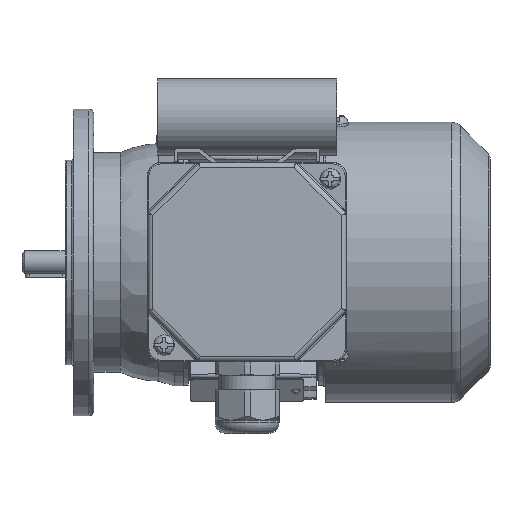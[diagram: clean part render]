
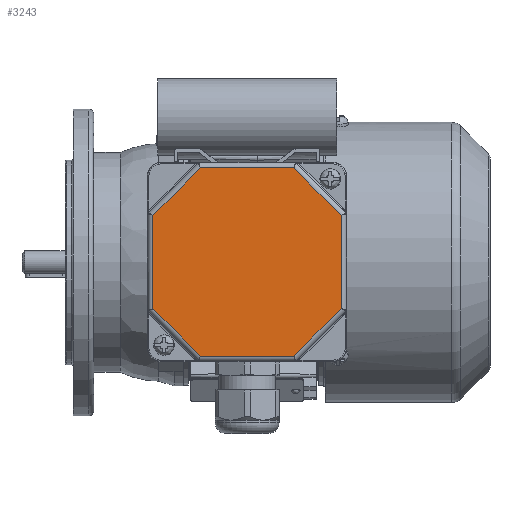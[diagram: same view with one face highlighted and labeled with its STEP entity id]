
A CAD part, top view. The second image highlights one B-rep face of the part: STEP entity #3243.
In plain terms, the highlighted planar face has unit normal (0, 0, 1).
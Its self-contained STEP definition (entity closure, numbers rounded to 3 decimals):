
#3243 = ADVANCED_FACE( '', ( #7166 ), #7167, .T. );
#7166 = FACE_OUTER_BOUND( '', #15198, .T. );
#7167 = PLANE( '', #15199 );
#15198 = EDGE_LOOP( '', ( #30083, #30084, #30085, #30086, #30087, #30088, #30089, #30090 ) );
#15199 = AXIS2_PLACEMENT_3D( '', #30091, #30092, #30093 );
#30083 = ORIENTED_EDGE( '', *, *, #40921, .T. );
#30084 = ORIENTED_EDGE( '', *, *, #42422, .T. );
#30085 = ORIENTED_EDGE( '', *, *, #42688, .T. );
#30086 = ORIENTED_EDGE( '', *, *, #42689, .T. );
#30087 = ORIENTED_EDGE( '', *, *, #42690, .T. );
#30088 = ORIENTED_EDGE( '', *, *, #42691, .T. );
#30089 = ORIENTED_EDGE( '', *, *, #40844, .T. );
#30090 = ORIENTED_EDGE( '', *, *, #42692, .T. );
#30091 = CARTESIAN_POINT( '', ( -39., 39., 12. ) );
#30092 = DIRECTION( '', ( 0., 0., 1. ) );
#30093 = DIRECTION( '', ( 1., 0., 0. ) );
#40844 = EDGE_CURVE( '', #47655, #47656, #47657, .F. );
#40921 = EDGE_CURVE( '', #47793, #47791, #47794, .F. );
#42422 = EDGE_CURVE( '', #47791, #47117, #50299, .T. );
#42688 = EDGE_CURVE( '', #47117, #50470, #50707, .F. );
#42689 = EDGE_CURVE( '', #50470, #50708, #50709, .T. );
#42690 = EDGE_CURVE( '', #50708, #50710, #50711, .F. );
#42691 = EDGE_CURVE( '', #50710, #47655, #50712, .T. );
#42692 = EDGE_CURVE( '', #47656, #47793, #50713, .T. );
#47117 = VERTEX_POINT( '', #56202 );
#47655 = VERTEX_POINT( '', #57297 );
#47656 = VERTEX_POINT( '', #57298 );
#47657 = LINE( '', #57299, #57300 );
#47791 = VERTEX_POINT( '', #57519 );
#47793 = VERTEX_POINT( '', #57521 );
#47794 = LINE( '', #57522, #57523 );
#50299 = LINE( '', #63246, #63247 );
#50470 = VERTEX_POINT( '', #63652 );
#50707 = LINE( '', #64301, #64302 );
#50708 = VERTEX_POINT( '', #64303 );
#50709 = LINE( '', #64304, #64305 );
#50710 = VERTEX_POINT( '', #64306 );
#50711 = LINE( '', #64307, #64308 );
#50712 = LINE( '', #64309, #64310 );
#50713 = LINE( '', #64311, #64312 );
#56202 = CARTESIAN_POINT( '', ( 18.255, 36.825, 12. ) );
#57297 = CARTESIAN_POINT( '', ( -18.255, -36.825, 12. ) );
#57298 = CARTESIAN_POINT( '', ( 18.255, -36.825, 12. ) );
#57299 = CARTESIAN_POINT( '', ( 19.069, -36.825, 12. ) );
#57300 = VECTOR( '', #75414, 1000. );
#57519 = CARTESIAN_POINT( '', ( 36.825, 18.255, 12. ) );
#57521 = CARTESIAN_POINT( '', ( 36.825, -18.255, 12. ) );
#57522 = CARTESIAN_POINT( '', ( 36.825, 19.069, 12. ) );
#57523 = VECTOR( '', #75505, 1000. );
#63246 = CARTESIAN_POINT( '', ( 17.679, 37.401, 12. ) );
#63247 = VECTOR( '', #77390, 1000. );
#63652 = CARTESIAN_POINT( '', ( -18.255, 36.825, 12. ) );
#64301 = CARTESIAN_POINT( '', ( -19.069, 36.825, 12. ) );
#64302 = VECTOR( '', #77670, 1000. );
#64303 = CARTESIAN_POINT( '', ( -36.825, 18.255, 12. ) );
#64304 = CARTESIAN_POINT( '', ( -37.401, 17.679, 12. ) );
#64305 = VECTOR( '', #77671, 1000. );
#64306 = CARTESIAN_POINT( '', ( -36.825, -18.255, 12. ) );
#64307 = CARTESIAN_POINT( '', ( -36.825, -19.069, 12. ) );
#64308 = VECTOR( '', #77672, 1000. );
#64309 = CARTESIAN_POINT( '', ( -17.679, -37.401, 12. ) );
#64310 = VECTOR( '', #77673, 1000. );
#64311 = CARTESIAN_POINT( '', ( 37.401, -17.679, 12. ) );
#64312 = VECTOR( '', #77674, 1000. );
#75414 = DIRECTION( '', ( -1., 0., 0. ) );
#75505 = DIRECTION( '', ( 0., -1., 0. ) );
#77390 = DIRECTION( '', ( -0.707, 0.707, 0. ) );
#77670 = DIRECTION( '', ( 1., 0., 0. ) );
#77671 = DIRECTION( '', ( -0.707, -0.707, 0. ) );
#77672 = DIRECTION( '', ( 0., 1., 0. ) );
#77673 = DIRECTION( '', ( 0.707, -0.707, 0. ) );
#77674 = DIRECTION( '', ( 0.707, 0.707, 0. ) );
